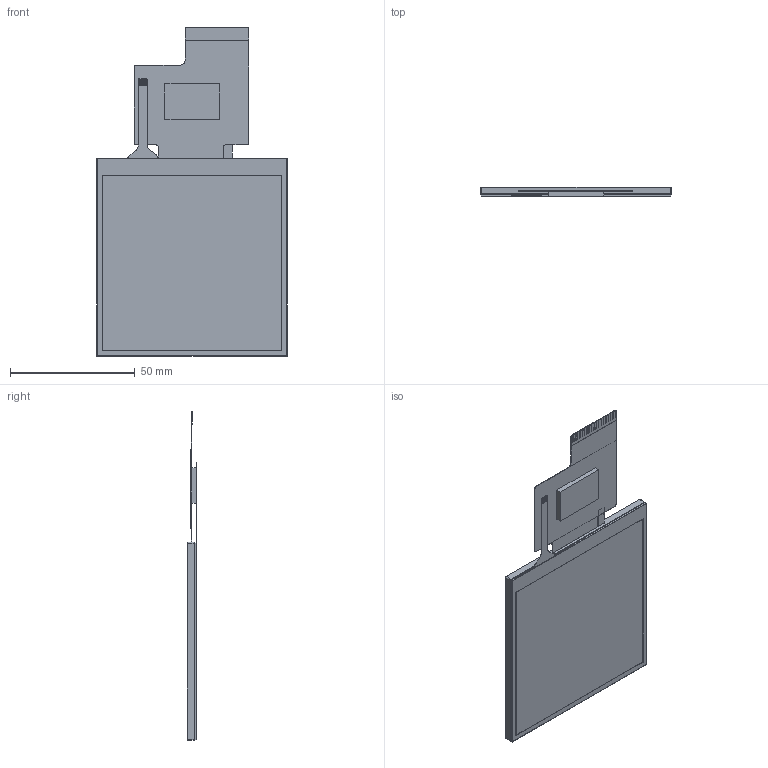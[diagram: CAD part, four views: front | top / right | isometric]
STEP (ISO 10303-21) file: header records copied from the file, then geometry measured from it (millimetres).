
FILE_DESCRIPTION (( 'STEP AP214' ), '1' );
FILE_NAME ('DMG48480F040_01WTR 3D.STEP', '2023-09-14T07:08:54', ( '' ), ( 'Microsoft' ), 'SwSTEP 2.0', 'SolidWorks 2017', '' );
FILE_SCHEMA (( 'AUTOMOTIVE_DESIGN' ));
Length unit declared in the file: millimetre
Products named in the file (3): YF04010 軞傖芞; DMG48480F040_01WN; DMG48480F040_01WTR 3D
Assembly tree (2 placements, depth 2):
  DMG48480F040_01WTR 3D
    DMG48480F040_01WN
    YF04010 軞傖芞
Bounding box: 76.4 x 3.86 x 131.68 mm (x, y, z)
Volume: 22572.1 mm3; surface area: 34619.3 mm2
Topology: 6 solids, 6 shells, 383 faces, 938 edges, 628 vertices
Faces by surface type: plane 360, cylinder 23
Entity records: 15450 total; most frequent: CARTESIAN_POINT 1954, ORIENTED_EDGE 1876, DIRECTION 1765, EDGE_CURVE 938, VECTOR 887, LINE 887, VERTEX_POINT 628, EDGE_LOOP 446
